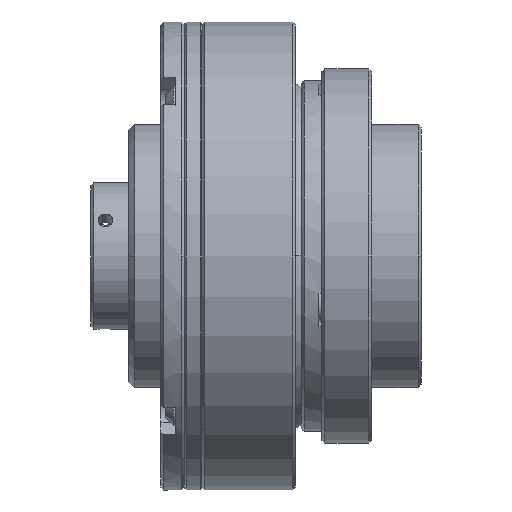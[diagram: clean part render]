
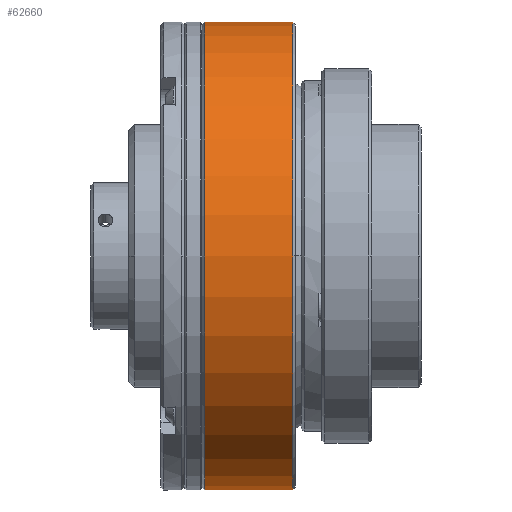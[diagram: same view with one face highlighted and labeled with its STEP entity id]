
A CAD part, front view. The second image highlights one B-rep face of the part: STEP entity #62660.
In plain terms, the highlighted cylindrical face has radius 40 mm (diameter 80 mm), a partial arc.
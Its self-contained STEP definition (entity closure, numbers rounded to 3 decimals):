
#123 = LINE ( 'NONE', #106800, #90739 ) ;
#298 = CARTESIAN_POINT ( 'NONE',  ( -44.1, 11.94, 40. ) ) ;
#1429 = DIRECTION ( 'NONE',  ( -1., 0., 0. ) ) ;
#6931 = DIRECTION ( 'NONE',  ( 0., 0., 1. ) ) ;
#12296 = CYLINDRICAL_SURFACE ( 'NONE', #94174, 40. ) ;
#13765 = ORIENTED_EDGE ( 'NONE', *, *, #29880, .T. ) ;
#17091 = DIRECTION ( 'NONE',  ( 1., 0., 0. ) ) ;
#26374 = LINE ( 'NONE', #55732, #110302 ) ;
#28155 = DIRECTION ( 'NONE',  ( 1., 0., 0. ) ) ;
#29502 = VERTEX_POINT ( 'NONE', #95087 ) ;
#29880 = EDGE_CURVE ( 'NONE', #67897, #113984, #123, .T. ) ;
#35518 = CARTESIAN_POINT ( 'NONE',  ( -44.1, 11.94, -40. ) ) ;
#38691 = FACE_OUTER_BOUND ( 'NONE', #63329, .T. ) ;
#38740 = ORIENTED_EDGE ( 'NONE', *, *, #127096, .F. ) ;
#41890 = DIRECTION ( 'NONE',  ( 1., 0., 0. ) ) ;
#42781 = CARTESIAN_POINT ( 'NONE',  ( -29.1, 11.94, 0. ) ) ;
#55732 = CARTESIAN_POINT ( 'NONE',  ( -44.6, 11.94, -40. ) ) ;
#56545 = DIRECTION ( 'NONE',  ( 0., 0., 1. ) ) ;
#58459 = CARTESIAN_POINT ( 'NONE',  ( -29.1, 11.94, -40. ) ) ;
#59062 = CARTESIAN_POINT ( 'NONE',  ( -44.1, 11.94, 0. ) ) ;
#59504 = VERTEX_POINT ( 'NONE', #35518 ) ;
#62660 = ADVANCED_FACE ( 'NONE', ( #38691 ), #12296, .T. ) ;
#63329 = EDGE_LOOP ( 'NONE', ( #38740, #74186, #77099, #13765, #111707 ) ) ;
#67897 = VERTEX_POINT ( 'NONE', #91397 ) ;
#71227 = VERTEX_POINT ( 'NONE', #58459 ) ;
#73163 = DIRECTION ( 'NONE',  ( 0., 0., 1. ) ) ;
#74186 = ORIENTED_EDGE ( 'NONE', *, *, #126826, .F. ) ;
#77099 = ORIENTED_EDGE ( 'NONE', *, *, #131143, .F. ) ;
#79283 = CARTESIAN_POINT ( 'NONE',  ( -29.1, 11.94, 0. ) ) ;
#82716 = AXIS2_PLACEMENT_3D ( 'NONE', #59062, #28155, #6931 ) ;
#84139 = CARTESIAN_POINT ( 'NONE',  ( -44.6, 11.94, 0. ) ) ;
#87335 = AXIS2_PLACEMENT_3D ( 'NONE', #79283, #17091, #90704 ) ;
#87744 = DIRECTION ( 'NONE',  ( -1., 0., 0. ) ) ;
#89737 = EDGE_CURVE ( 'NONE', #113984, #59504, #116586, .T. ) ;
#89743 = CIRCLE ( 'NONE', #101645, 40. ) ;
#90704 = DIRECTION ( 'NONE',  ( 0., 0., 1. ) ) ;
#90739 = VECTOR ( 'NONE', #1429, 1000. ) ;
#91397 = CARTESIAN_POINT ( 'NONE',  ( -29.1, 11.94, 40. ) ) ;
#94174 = AXIS2_PLACEMENT_3D ( 'NONE', #84139, #87744, #56545 ) ;
#95087 = CARTESIAN_POINT ( 'NONE',  ( -29.1, -28.06, 0. ) ) ;
#97536 = DIRECTION ( 'NONE',  ( -1., 0., 0. ) ) ;
#101645 = AXIS2_PLACEMENT_3D ( 'NONE', #42781, #41890, #73163 ) ;
#106800 = CARTESIAN_POINT ( 'NONE',  ( -44.6, 11.94, 40. ) ) ;
#110302 = VECTOR ( 'NONE', #97536, 1000. ) ;
#111707 = ORIENTED_EDGE ( 'NONE', *, *, #89737, .T. ) ;
#113984 = VERTEX_POINT ( 'NONE', #298 ) ;
#116586 = CIRCLE ( 'NONE', #82716, 40. ) ;
#126826 = EDGE_CURVE ( 'NONE', #29502, #71227, #128559, .T. ) ;
#127096 = EDGE_CURVE ( 'NONE', #71227, #59504, #26374, .T. ) ;
#128559 = CIRCLE ( 'NONE', #87335, 40. ) ;
#131143 = EDGE_CURVE ( 'NONE', #67897, #29502, #89743, .T. ) ;
